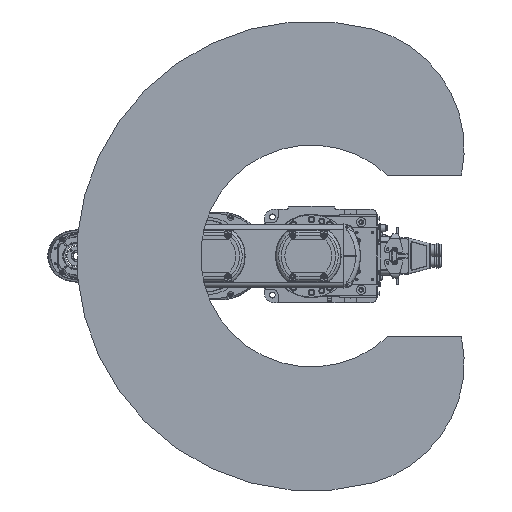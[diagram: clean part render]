
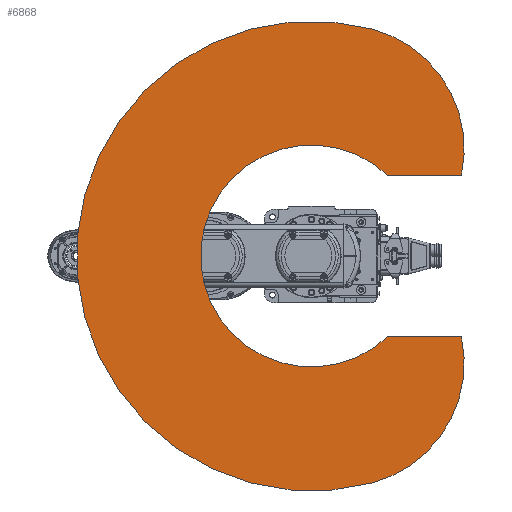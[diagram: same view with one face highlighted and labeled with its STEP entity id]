
A CAD part, front view. The second image highlights one B-rep face of the part: STEP entity #6868.
In plain terms, the highlighted planar face has unit normal (0, -1, 0).
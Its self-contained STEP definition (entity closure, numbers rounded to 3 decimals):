
#6868 = ADVANCED_FACE( '', ( #15215 ), #15216, .F. );
#15215 = FACE_OUTER_BOUND( '', #25073, .T. );
#15216 = PLANE( '', #25074 );
#25073 = EDGE_LOOP( '', ( #44335, #44336, #44337, #44338, #44339, #44340 ) );
#25074 = AXIS2_PLACEMENT_3D( '', #44341, #44342, #44343 );
#44335 = ORIENTED_EDGE( '', *, *, #58095, .T. );
#44336 = ORIENTED_EDGE( '', *, *, #58096, .F. );
#44337 = ORIENTED_EDGE( '', *, *, #52872, .F. );
#44338 = ORIENTED_EDGE( '', *, *, #52302, .F. );
#44339 = ORIENTED_EDGE( '', *, *, #58097, .T. );
#44340 = ORIENTED_EDGE( '', *, *, #54140, .T. );
#44341 = CARTESIAN_POINT( '', ( 102.614, 0., 27.495 ) );
#44342 = DIRECTION( '', ( 0., 1., 0. ) );
#44343 = DIRECTION( '', ( 0., 0., 1. ) );
#52302 = EDGE_CURVE( '', #62171, #62174, #62175, .T. );
#52872 = EDGE_CURVE( '', #62174, #63152, #63153, .T. );
#54140 = EDGE_CURVE( '', #65195, #65193, #65196, .T. );
#58095 = EDGE_CURVE( '', #65193, #70763, #70764, .T. );
#58096 = EDGE_CURVE( '', #63152, #70763, #70765, .T. );
#58097 = EDGE_CURVE( '', #62171, #65195, #70766, .T. );
#62171 = VERTEX_POINT( '', #77369 );
#62174 = VERTEX_POINT( '', #77373 );
#62175 = CIRCLE( '', #77374, 237.533 );
#63152 = VERTEX_POINT( '', #78858 );
#63153 = CIRCLE( '', #78859, 450. );
#65193 = VERTEX_POINT( '', #82249 );
#65195 = VERTEX_POINT( '', #82252 );
#65196 = CIRCLE( '', #82253, 212.47 );
#70763 = VERTEX_POINT( '', #91975 );
#70764 = LINE( '', #91976, #91977 );
#70765 = CIRCLE( '', #91978, 237.533 );
#70766 = LINE( '', #91979, #91980 );
#77369 = CARTESIAN_POINT( '', ( 155., 0., 287.152 ) );
#77373 = CARTESIAN_POINT( '', ( 434.667, 0., 116.469 ) );
#77374 = AXIS2_PLACEMENT_3D( '', #95994, #95995, #95996 );
#78858 = CARTESIAN_POINT( '', ( -434.667, 0., 116.469 ) );
#78859 = AXIS2_PLACEMENT_3D( '', #96797, #96798, #96799 );
#82249 = CARTESIAN_POINT( '', ( -155., 0., 145.322 ) );
#82252 = CARTESIAN_POINT( '', ( 155., 0., 145.322 ) );
#82253 = AXIS2_PLACEMENT_3D( '', #98379, #98380, #98381 );
#91975 = CARTESIAN_POINT( '', ( -155., 0., 287.152 ) );
#91976 = CARTESIAN_POINT( '', ( -155., 0., 0. ) );
#91977 = VECTOR( '', #102692, 1000. );
#91978 = AXIS2_PLACEMENT_3D( '', #102693, #102694, #102695 );
#91979 = CARTESIAN_POINT( '', ( 155., 0., 305. ) );
#91980 = VECTOR( '', #102696, 1000. );
#95994 = CARTESIAN_POINT( '', ( 205.228, 0., 54.991 ) );
#95995 = DIRECTION( '', ( 0., 1., 0. ) );
#95996 = DIRECTION( '', ( 1., 0., 0. ) );
#96797 = CARTESIAN_POINT( '', ( 0., 0., 0. ) );
#96798 = DIRECTION( '', ( 0., 1., 0. ) );
#96799 = DIRECTION( '', ( 1., 0., 0. ) );
#98379 = CARTESIAN_POINT( '', ( 0., 0., 0. ) );
#98380 = DIRECTION( '', ( 0., 1., 0. ) );
#98381 = DIRECTION( '', ( 1., 0., 0. ) );
#102692 = DIRECTION( '', ( 0., 0., 1. ) );
#102693 = CARTESIAN_POINT( '', ( -205.228, 0., 54.991 ) );
#102694 = DIRECTION( '', ( 0., 1., 0. ) );
#102695 = DIRECTION( '', ( 1., 0., 0. ) );
#102696 = DIRECTION( '', ( 0., 0., -1. ) );
